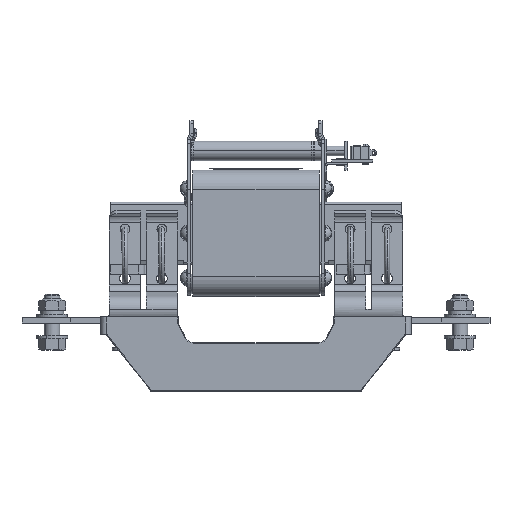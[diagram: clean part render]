
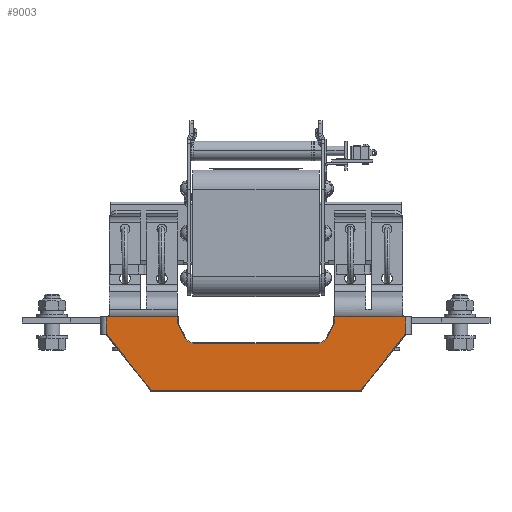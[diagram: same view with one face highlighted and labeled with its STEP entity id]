
A CAD part, top view. The second image highlights one B-rep face of the part: STEP entity #9003.
In plain terms, the highlighted planar face has unit normal (0, 0, 1).
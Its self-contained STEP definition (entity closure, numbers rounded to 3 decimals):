
#6483 = VERTEX_POINT ( 'NONE', #30846 ) ;
#6490 = EDGE_CURVE ( 'NONE', #6624, #6483, #30938, .T. ) ;
#6583 = EDGE_CURVE ( 'NONE', #6605, #6591, #31056, .T. ) ;
#6591 = VERTEX_POINT ( 'NONE', #31158 ) ;
#6605 = VERTEX_POINT ( 'NONE', #31127 ) ;
#6624 = VERTEX_POINT ( 'NONE', #31226 ) ;
#7273 = VERTEX_POINT ( 'NONE', #32779 ) ;
#7349 = VERTEX_POINT ( 'NONE', #32861 ) ;
#7352 = EDGE_CURVE ( 'NONE', #7273, #7349, #32860, .T. ) ;
#7383 = EDGE_CURVE ( 'NONE', #7384, #7418, #32911, .T. ) ;
#7384 = VERTEX_POINT ( 'NONE', #32906 ) ;
#7413 = VERTEX_POINT ( 'NONE', #32953 ) ;
#7416 = EDGE_CURVE ( 'NONE', #7418, #7413, #32938, .T. ) ;
#7418 = VERTEX_POINT ( 'NONE', #32931 ) ;
#7455 = EDGE_CURVE ( 'NONE', #7456, #7491, #33084, .T. ) ;
#7456 = VERTEX_POINT ( 'NONE', #33077 ) ;
#7470 = EDGE_CURVE ( 'NONE', #7472, #7456, #33052, .T. ) ;
#7472 = VERTEX_POINT ( 'NONE', #33044 ) ;
#7489 = EDGE_CURVE ( 'NONE', #7491, #7384, #33136, .T. ) ;
#7491 = VERTEX_POINT ( 'NONE', #33122 ) ;
#7581 = EDGE_CURVE ( 'NONE', #7349, #7472, #33315, .T. ) ;
#8063 = EDGE_CURVE ( 'NONE', #8085, #7273, #34305, .T. ) ;
#8081 = EDGE_CURVE ( 'NONE', #8083, #8085, #34399, .T. ) ;
#8083 = VERTEX_POINT ( 'NONE', #34394 ) ;
#8085 = VERTEX_POINT ( 'NONE', #34392 ) ;
#8581 = VERTEX_POINT ( 'NONE', #35792 ) ;
#8672 = EDGE_CURVE ( 'NONE', #8703, #6605, #36049, .T. ) ;
#8703 = VERTEX_POINT ( 'NONE', #36104 ) ;
#8707 = EDGE_CURVE ( 'NONE', #8581, #8703, #36101, .T. ) ;
#9002 = EDGE_CURVE ( 'NONE', #6591, #8083, #24346, .T. ) ;
#9003 = ADVANCED_FACE ( 'NONE', ( #24340 ), #24337, .T. ) ;
#9005 = EDGE_LOOP ( 'NONE', ( #9007, #9010, #9012, #9014, #9015, #9016, #9125, #9127, #9130, #9132, #9133, #9136, #9138, #9142, #9101, #9103 ) ) ;
#9007 = ORIENTED_EDGE ( 'NONE', *, *, #9002, .T. ) ;
#9010 = ORIENTED_EDGE ( 'NONE', *, *, #8081, .T. ) ;
#9012 = ORIENTED_EDGE ( 'NONE', *, *, #8063, .T. ) ;
#9014 = ORIENTED_EDGE ( 'NONE', *, *, #7352, .T. ) ;
#9015 = ORIENTED_EDGE ( 'NONE', *, *, #7581, .T. ) ;
#9016 = ORIENTED_EDGE ( 'NONE', *, *, #7470, .T. ) ;
#9101 = ORIENTED_EDGE ( 'NONE', *, *, #8672, .T. ) ;
#9103 = ORIENTED_EDGE ( 'NONE', *, *, #6583, .T. ) ;
#9125 = ORIENTED_EDGE ( 'NONE', *, *, #7455, .T. ) ;
#9127 = ORIENTED_EDGE ( 'NONE', *, *, #7489, .T. ) ;
#9130 = ORIENTED_EDGE ( 'NONE', *, *, #7383, .T. ) ;
#9132 = ORIENTED_EDGE ( 'NONE', *, *, #7416, .T. ) ;
#9133 = ORIENTED_EDGE ( 'NONE', *, *, #9134, .T. ) ;
#9134 = EDGE_CURVE ( 'NONE', #7413, #6624, #24757, .T. ) ;
#9136 = ORIENTED_EDGE ( 'NONE', *, *, #6490, .T. ) ;
#9138 = ORIENTED_EDGE ( 'NONE', *, *, #9140, .T. ) ;
#9140 = EDGE_CURVE ( 'NONE', #6483, #8581, #24748, .T. ) ;
#9142 = ORIENTED_EDGE ( 'NONE', *, *, #8707, .T. ) ;
#24337 = PLANE ( 'NONE',  #24478 ) ;
#24340 = FACE_OUTER_BOUND ( 'NONE', #9005, .T. ) ;
#24341 = DIRECTION ( 'NONE',  ( 0.621, 0.783, 0. ) ) ;
#24343 = VECTOR ( 'NONE', #24341, 1000. ) ;
#24345 = CARTESIAN_POINT ( 'NONE',  ( 76.765, 4.183, 30. ) ) ;
#24346 = LINE ( 'NONE', #24345, #24343 ) ;
#24473 = DIRECTION ( 'NONE',  ( 0., -1., 0. ) ) ;
#24475 = DIRECTION ( 'NONE',  ( 0., 0., 1. ) ) ;
#24477 = CARTESIAN_POINT ( 'NONE',  ( 32., 5., 30. ) ) ;
#24478 = AXIS2_PLACEMENT_3D ( 'NONE', #24477, #24475, #24473 ) ;
#24742 = DIRECTION ( 'NONE',  ( 0., -1., 0. ) ) ;
#24743 = VECTOR ( 'NONE', #24742, 1000. ) ;
#24745 = CARTESIAN_POINT ( 'NONE',  ( -77., 3.997, 30. ) ) ;
#24748 = LINE ( 'NONE', #24745, #24743 ) ;
#24751 = DIRECTION ( 'NONE',  ( 0., 1., 0. ) ) ;
#24753 = VECTOR ( 'NONE', #24751, 1000. ) ;
#24755 = CARTESIAN_POINT ( 'NONE',  ( -40.3, 13.497, 30. ) ) ;
#24757 = LINE ( 'NONE', #24755, #24753 ) ;
#30846 = CARTESIAN_POINT ( 'NONE',  ( -77., 13.197, 30. ) ) ;
#30933 = DIRECTION ( 'NONE',  ( -1., 0., 0. ) ) ;
#30935 = VECTOR ( 'NONE', #30933, 1000. ) ;
#30937 = CARTESIAN_POINT ( 'NONE',  ( -77., 13.197, 30. ) ) ;
#30938 = LINE ( 'NONE', #30937, #30935 ) ;
#31051 = DIRECTION ( 'NONE',  ( 1., 0., 0. ) ) ;
#31053 = VECTOR ( 'NONE', #31051, 1000. ) ;
#31055 = CARTESIAN_POINT ( 'NONE',  ( 54., -24.703, 30. ) ) ;
#31056 = LINE ( 'NONE', #31055, #31053 ) ;
#31127 = CARTESIAN_POINT ( 'NONE',  ( -53.855, -24.703, 30. ) ) ;
#31158 = CARTESIAN_POINT ( 'NONE',  ( 53.855, -24.703, 30. ) ) ;
#31226 = CARTESIAN_POINT ( 'NONE',  ( -40.3, 13.197, 30. ) ) ;
#32779 = CARTESIAN_POINT ( 'NONE',  ( 77., 13.197, 30. ) ) ;
#32857 = DIRECTION ( 'NONE',  ( -1., 0., 0. ) ) ;
#32858 = VECTOR ( 'NONE', #32857, 1000. ) ;
#32859 = CARTESIAN_POINT ( 'NONE',  ( 40., 13.197, 30. ) ) ;
#32860 = LINE ( 'NONE', #32859, #32858 ) ;
#32861 = CARTESIAN_POINT ( 'NONE',  ( 40.3, 13.197, 30. ) ) ;
#32906 = CARTESIAN_POINT ( 'NONE',  ( -32., -0.3, 30. ) ) ;
#32907 = DIRECTION ( 'NONE',  ( 0., -1., 0. ) ) ;
#32908 = DIRECTION ( 'NONE',  ( 0., 0., -1. ) ) ;
#32909 = CARTESIAN_POINT ( 'NONE',  ( -32., 5., 30. ) ) ;
#32910 = AXIS2_PLACEMENT_3D ( 'NONE', #32909, #32908, #32907 ) ;
#32911 = CIRCLE ( 'NONE', #32910, 5.3 ) ;
#32931 = CARTESIAN_POINT ( 'NONE',  ( -36.764, 2.677, 30. ) ) ;
#32933 = DIRECTION ( 'NONE',  ( -0.438, 0.899, 0. ) ) ;
#32935 = VECTOR ( 'NONE', #32933, 1000. ) ;
#32937 = CARTESIAN_POINT ( 'NONE',  ( -40.27, 9.865, 30. ) ) ;
#32938 = LINE ( 'NONE', #32937, #32935 ) ;
#32953 = CARTESIAN_POINT ( 'NONE',  ( -40.3, 9.927, 30. ) ) ;
#33044 = CARTESIAN_POINT ( 'NONE',  ( 40.3, 9.927, 30. ) ) ;
#33046 = DIRECTION ( 'NONE',  ( -0.438, -0.899, 0. ) ) ;
#33048 = VECTOR ( 'NONE', #33046, 1000. ) ;
#33050 = CARTESIAN_POINT ( 'NONE',  ( 36.764, 2.677, 30. ) ) ;
#33052 = LINE ( 'NONE', #33050, #33048 ) ;
#33077 = CARTESIAN_POINT ( 'NONE',  ( 36.764, 2.677, 30. ) ) ;
#33080 = DIRECTION ( 'NONE',  ( 0., -1., 0. ) ) ;
#33081 = DIRECTION ( 'NONE',  ( 0., 0., -1. ) ) ;
#33082 = CARTESIAN_POINT ( 'NONE',  ( 32., 5., 30. ) ) ;
#33083 = AXIS2_PLACEMENT_3D ( 'NONE', #33082, #33081, #33080 ) ;
#33084 = CIRCLE ( 'NONE', #33083, 5.3 ) ;
#33122 = CARTESIAN_POINT ( 'NONE',  ( 32., -0.3, 30. ) ) ;
#33125 = DIRECTION ( 'NONE',  ( -1., 0., 0. ) ) ;
#33127 = VECTOR ( 'NONE', #33125, 1000. ) ;
#33128 = CARTESIAN_POINT ( 'NONE',  ( -32., -0.3, 30. ) ) ;
#33136 = LINE ( 'NONE', #33128, #33127 ) ;
#33302 = DIRECTION ( 'NONE',  ( 0., -1., 0. ) ) ;
#33304 = VECTOR ( 'NONE', #33302, 1000. ) ;
#33306 = CARTESIAN_POINT ( 'NONE',  ( 40.3, 9.997, 30. ) ) ;
#33315 = LINE ( 'NONE', #33306, #33304 ) ;
#34305 = LINE ( 'NONE', #34427, #34425 ) ;
#34392 = CARTESIAN_POINT ( 'NONE',  ( 77., 4.279, 30. ) ) ;
#34394 = CARTESIAN_POINT ( 'NONE',  ( 76.675, 4.069, 30. ) ) ;
#34395 = DIRECTION ( 'NONE',  ( 0., -1., 0. ) ) ;
#34396 = DIRECTION ( 'NONE',  ( 0., 0., -1. ) ) ;
#34397 = CARTESIAN_POINT ( 'NONE',  ( 77.145, 3.697, 30. ) ) ;
#34398 = AXIS2_PLACEMENT_3D ( 'NONE', #34397, #34396, #34395 ) ;
#34399 = CIRCLE ( 'NONE', #34398, 0.6 ) ;
#34424 = DIRECTION ( 'NONE',  ( 0., 1., 0. ) ) ;
#34425 = VECTOR ( 'NONE', #34424, 1000. ) ;
#34427 = CARTESIAN_POINT ( 'NONE',  ( 77., 13.497, 30. ) ) ;
#35792 = CARTESIAN_POINT ( 'NONE',  ( -77., 4.279, 30. ) ) ;
#36046 = DIRECTION ( 'NONE',  ( 0.621, -0.783, 0. ) ) ;
#36047 = VECTOR ( 'NONE', #36046, 1000. ) ;
#36048 = CARTESIAN_POINT ( 'NONE',  ( -53.765, -24.817, 30. ) ) ;
#36049 = LINE ( 'NONE', #36048, #36047 ) ;
#36095 = DIRECTION ( 'NONE',  ( 0., -1., 0. ) ) ;
#36096 = DIRECTION ( 'NONE',  ( 0., 0., -1. ) ) ;
#36098 = CARTESIAN_POINT ( 'NONE',  ( -77.145, 3.697, 30. ) ) ;
#36099 = AXIS2_PLACEMENT_3D ( 'NONE', #36098, #36096, #36095 ) ;
#36101 = CIRCLE ( 'NONE', #36099, 0.6 ) ;
#36104 = CARTESIAN_POINT ( 'NONE',  ( -76.675, 4.069, 30. ) ) ;
